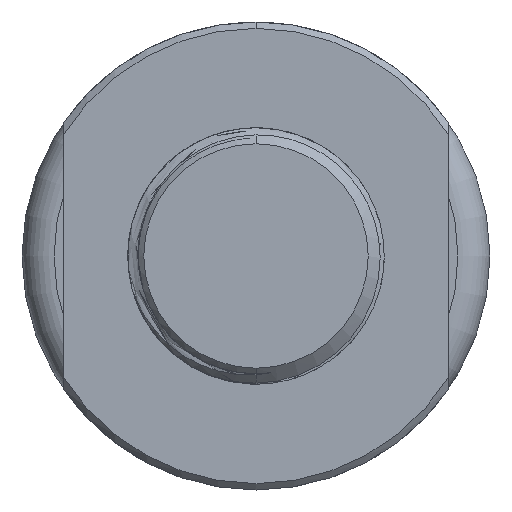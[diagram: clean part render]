
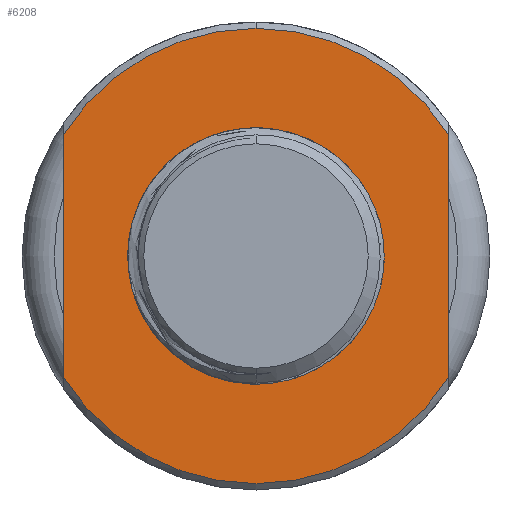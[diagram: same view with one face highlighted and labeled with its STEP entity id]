
A CAD part, front view. The second image highlights one B-rep face of the part: STEP entity #6208.
In plain terms, the highlighted planar face has unit normal (0, -1, 0).
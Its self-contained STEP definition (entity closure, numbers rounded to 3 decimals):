
#55 = AXIS2_PLACEMENT_3D ( 'NONE', #6862, #4547, #7673 ) ;
#152 = AXIS2_PLACEMENT_3D ( 'NONE', #1181, #1992, #6663 ) ;
#286 = CARTESIAN_POINT ( 'NONE',  ( 60., 0., -37.961 ) ) ;
#470 = AXIS2_PLACEMENT_3D ( 'NONE', #2114, #2064, #4571 ) ;
#573 = CARTESIAN_POINT ( 'NONE',  ( 0., 0., 0. ) ) ;
#580 = DIRECTION ( 'NONE',  ( 0., 0., -1. ) ) ;
#638 = ORIENTED_EDGE ( 'NONE', *, *, #1568, .F. ) ;
#736 = VERTEX_POINT ( 'NONE', #3298 ) ;
#1137 = EDGE_CURVE ( 'NONE', #736, #6729, #2431, .T. ) ;
#1141 = AXIS2_PLACEMENT_3D ( 'NONE', #3225, #2415, #10089 ) ;
#1181 = CARTESIAN_POINT ( 'NONE',  ( 0., 0., -71. ) ) ;
#1260 = EDGE_CURVE ( 'NONE', #4428, #2011, #6523, .T. ) ;
#1273 = VERTEX_POINT ( 'NONE', #6778 ) ;
#1542 = CARTESIAN_POINT ( 'NONE',  ( -60., 0., 37.961 ) ) ;
#1568 = EDGE_CURVE ( 'NONE', #4428, #3411, #3250, .T. ) ;
#1992 = DIRECTION ( 'NONE',  ( 0., -1., 0. ) ) ;
#2011 = VERTEX_POINT ( 'NONE', #286 ) ;
#2064 = DIRECTION ( 'NONE',  ( 0., -1., 0. ) ) ;
#2114 = CARTESIAN_POINT ( 'NONE',  ( 0., 0., 0. ) ) ;
#2415 = DIRECTION ( 'NONE',  ( 0., -1., 0. ) ) ;
#2431 = CIRCLE ( 'NONE', #470, 40. ) ;
#2689 = ORIENTED_EDGE ( 'NONE', *, *, #5831, .F. ) ;
#3225 = CARTESIAN_POINT ( 'NONE',  ( 0., 0., 0. ) ) ;
#3250 = LINE ( 'NONE', #6385, #7179 ) ;
#3298 = CARTESIAN_POINT ( 'NONE',  ( -40., 0., 0. ) ) ;
#3364 = DIRECTION ( 'NONE',  ( 0., 0., 1. ) ) ;
#3411 = VERTEX_POINT ( 'NONE', #1542 ) ;
#3418 = CARTESIAN_POINT ( 'NONE',  ( 60., 0., -73. ) ) ;
#3422 = AXIS2_PLACEMENT_3D ( 'NONE', #573, #4562, #7489 ) ;
#3457 = CARTESIAN_POINT ( 'NONE',  ( 0., 0., 71. ) ) ;
#3918 = EDGE_LOOP ( 'NONE', ( #2689, #5816 ) ) ;
#4226 = CARTESIAN_POINT ( 'NONE',  ( -60., 0., -37.961 ) ) ;
#4254 = EDGE_CURVE ( 'NONE', #2011, #1273, #7266, .T. ) ;
#4417 = DIRECTION ( 'NONE',  ( 0., -1., 0. ) ) ;
#4428 = VERTEX_POINT ( 'NONE', #4226 ) ;
#4538 = VERTEX_POINT ( 'NONE', #3457 ) ;
#4547 = DIRECTION ( 'NONE',  ( 0., -1., 0. ) ) ;
#4562 = DIRECTION ( 'NONE',  ( 0., -1., 0. ) ) ;
#4571 = DIRECTION ( 'NONE',  ( 0., 0., -1. ) ) ;
#4643 = EDGE_LOOP ( 'NONE', ( #638, #5878, #4745, #9782, #4788 ) ) ;
#4745 = ORIENTED_EDGE ( 'NONE', *, *, #4254, .T. ) ;
#4788 = ORIENTED_EDGE ( 'NONE', *, *, #5633, .T. ) ;
#5633 = EDGE_CURVE ( 'NONE', #4538, #3411, #8822, .T. ) ;
#5816 = ORIENTED_EDGE ( 'NONE', *, *, #1137, .F. ) ;
#5831 = EDGE_CURVE ( 'NONE', #6729, #736, #7676, .T. ) ;
#5878 = ORIENTED_EDGE ( 'NONE', *, *, #1260, .T. ) ;
#6047 = FACE_BOUND ( 'NONE', #3918, .T. ) ;
#6097 = FACE_OUTER_BOUND ( 'NONE', #4643, .T. ) ;
#6208 = ADVANCED_FACE ( 'NONE', ( #6097, #6047 ), #6712, .T. ) ;
#6385 = CARTESIAN_POINT ( 'NONE',  ( -60., 0., -73. ) ) ;
#6523 = CIRCLE ( 'NONE', #8965, 71. ) ;
#6663 = DIRECTION ( 'NONE',  ( 0., 0., -1. ) ) ;
#6712 = PLANE ( 'NONE',  #152 ) ;
#6729 = VERTEX_POINT ( 'NONE', #8856 ) ;
#6778 = CARTESIAN_POINT ( 'NONE',  ( 60., 0., 37.961 ) ) ;
#6862 = CARTESIAN_POINT ( 'NONE',  ( 0., 0., 0. ) ) ;
#7179 = VECTOR ( 'NONE', #7250, 1000. ) ;
#7250 = DIRECTION ( 'NONE',  ( 0., 0., 1. ) ) ;
#7266 = LINE ( 'NONE', #3418, #7839 ) ;
#7335 = EDGE_CURVE ( 'NONE', #1273, #4538, #7904, .T. ) ;
#7489 = DIRECTION ( 'NONE',  ( 0., 0., -1. ) ) ;
#7673 = DIRECTION ( 'NONE',  ( 0., 0., -1. ) ) ;
#7676 = CIRCLE ( 'NONE', #1141, 40. ) ;
#7839 = VECTOR ( 'NONE', #3364, 1000. ) ;
#7904 = CIRCLE ( 'NONE', #55, 71. ) ;
#8822 = CIRCLE ( 'NONE', #3422, 71. ) ;
#8856 = CARTESIAN_POINT ( 'NONE',  ( -28.304, 0., 28.264 ) ) ;
#8965 = AXIS2_PLACEMENT_3D ( 'NONE', #9947, #4417, #580 ) ;
#9782 = ORIENTED_EDGE ( 'NONE', *, *, #7335, .T. ) ;
#9947 = CARTESIAN_POINT ( 'NONE',  ( 0., 0., 0. ) ) ;
#10089 = DIRECTION ( 'NONE',  ( 0., 0., -1. ) ) ;
